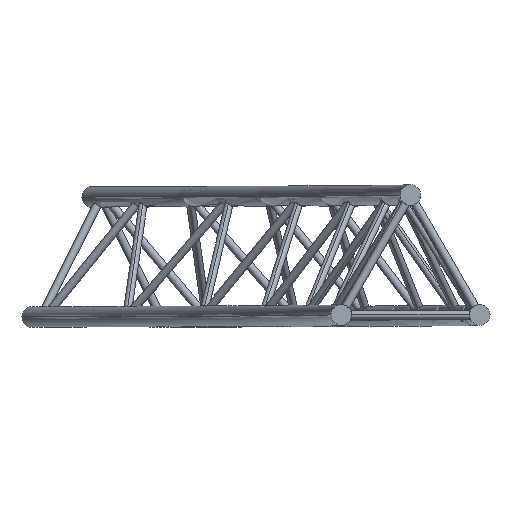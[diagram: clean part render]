
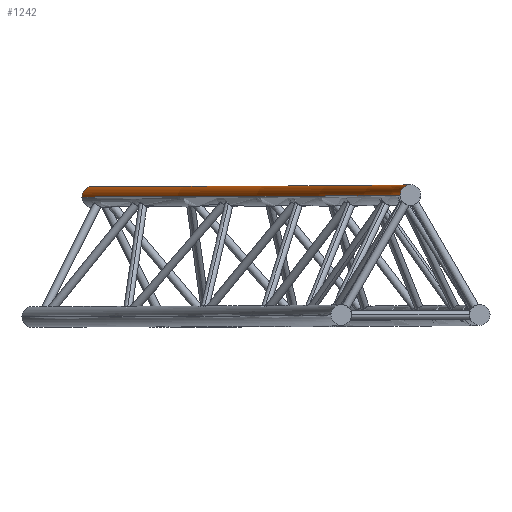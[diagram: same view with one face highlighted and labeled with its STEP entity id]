
A CAD part, top view. The second image highlights one B-rep face of the part: STEP entity #1242.
In plain terms, the highlighted toroidal (fillet/blend) face has major radius 5806.5 mm and minor radius 25 mm.
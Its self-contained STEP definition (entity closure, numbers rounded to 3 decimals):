
#933 = ORIENTED_EDGE ( 'NONE', *, *, #11078, .T. ) ;
#934 = ORIENTED_EDGE ( 'NONE', *, *, #939, .T. ) ;
#939 = EDGE_CURVE ( 'NONE', #11063, #11062, #4867, .T. ) ;
#942 = ORIENTED_EDGE ( 'NONE', *, *, #949, .F. ) ;
#949 = EDGE_CURVE ( 'NONE', #11070, #11074, #4890, .T. ) ;
#1237 = ORIENTED_EDGE ( 'NONE', *, *, #11068, .F. ) ;
#1240 = EDGE_LOOP ( 'NONE', ( #1237, #934, #933, #942 ) ) ;
#1242 = ADVANCED_FACE ( 'NONE', ( #6555 ), #6554, .T. ) ;
#4863 = DIRECTION ( 'NONE',  ( 0.866, 0., -0.5 ) ) ;
#4864 = DIRECTION ( 'NONE',  ( 0.5, 0., 0.866 ) ) ;
#4865 = CARTESIAN_POINT ( 'NONE',  ( 5028.577, 194.567, -2903.25 ) ) ;
#4866 = AXIS2_PLACEMENT_3D ( 'NONE', #4865, #4864, #4863 ) ;
#4867 = CIRCLE ( 'NONE', #4866, 25. ) ;
#4886 = DIRECTION ( 'NONE',  ( 1., 0., 0. ) ) ;
#4887 = DIRECTION ( 'NONE',  ( 0., 0., 1. ) ) ;
#4888 = CARTESIAN_POINT ( 'NONE',  ( 5806.5, 194.567, 0. ) ) ;
#4889 = AXIS2_PLACEMENT_3D ( 'NONE', #4888, #4887, #4886 ) ;
#4890 = CIRCLE ( 'NONE', #4889, 25. ) ;
#6553 = AXIS2_PLACEMENT_3D ( 'NONE', #6638, #6637, #6636 ) ;
#6554 = TOROIDAL_SURFACE ( 'NONE', #6553, 5806.5, 25. ) ;
#6555 = FACE_OUTER_BOUND ( 'NONE', #1240, .T. ) ;
#6636 = DIRECTION ( 'NONE',  ( 0., 0., -1. ) ) ;
#6637 = DIRECTION ( 'NONE',  ( 0., -1., 0. ) ) ;
#6638 = CARTESIAN_POINT ( 'NONE',  ( 0., 194.567, 0. ) ) ;
#9024 = DIRECTION ( 'NONE',  ( 0., 0., -1. ) ) ;
#9025 = DIRECTION ( 'NONE',  ( 0., -1., 0. ) ) ;
#9026 = CARTESIAN_POINT ( 'NONE',  ( 0., 194.567, 0. ) ) ;
#9027 = AXIS2_PLACEMENT_3D ( 'NONE', #9026, #9025, #9024 ) ;
#9028 = CIRCLE ( 'NONE', #9027, 5831.5 ) ;
#9036 = CARTESIAN_POINT ( 'NONE',  ( 5050.227, 194.567, -2915.75 ) ) ;
#9037 = CARTESIAN_POINT ( 'NONE',  ( 5006.926, 194.567, -2890.75 ) ) ;
#9098 = CARTESIAN_POINT ( 'NONE',  ( 5831.5, 194.567, 0. ) ) ;
#9106 = DIRECTION ( 'NONE',  ( 0., 0., -1. ) ) ;
#9107 = DIRECTION ( 'NONE',  ( 0., -1., 0. ) ) ;
#9108 = CARTESIAN_POINT ( 'NONE',  ( 0., 194.567, 0. ) ) ;
#9109 = AXIS2_PLACEMENT_3D ( 'NONE', #9108, #9107, #9106 ) ;
#9110 = CIRCLE ( 'NONE', #9109, 5781.5 ) ;
#9115 = CARTESIAN_POINT ( 'NONE',  ( 5781.5, 194.567, 0. ) ) ;
#11062 = VERTEX_POINT ( 'NONE', #9037 ) ;
#11063 = VERTEX_POINT ( 'NONE', #9036 ) ;
#11068 = EDGE_CURVE ( 'NONE', #11063, #11070, #9028, .T. ) ;
#11070 = VERTEX_POINT ( 'NONE', #9098 ) ;
#11074 = VERTEX_POINT ( 'NONE', #9115 ) ;
#11078 = EDGE_CURVE ( 'NONE', #11062, #11074, #9110, .T. ) ;
